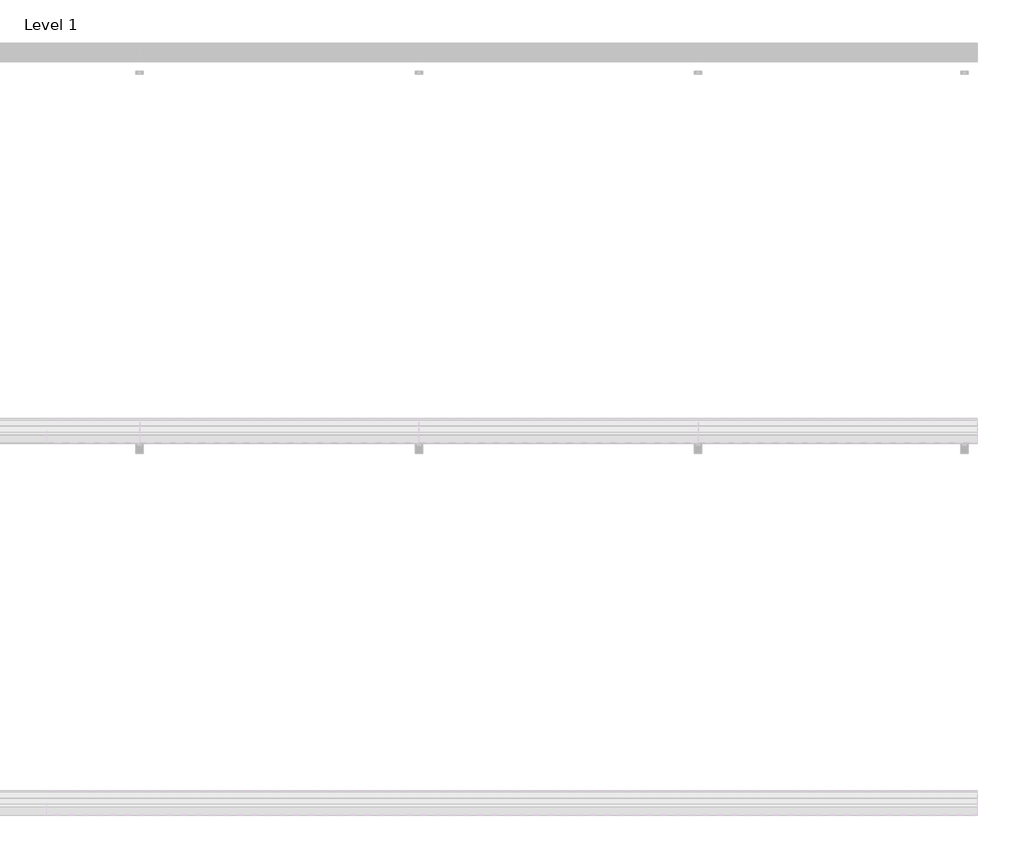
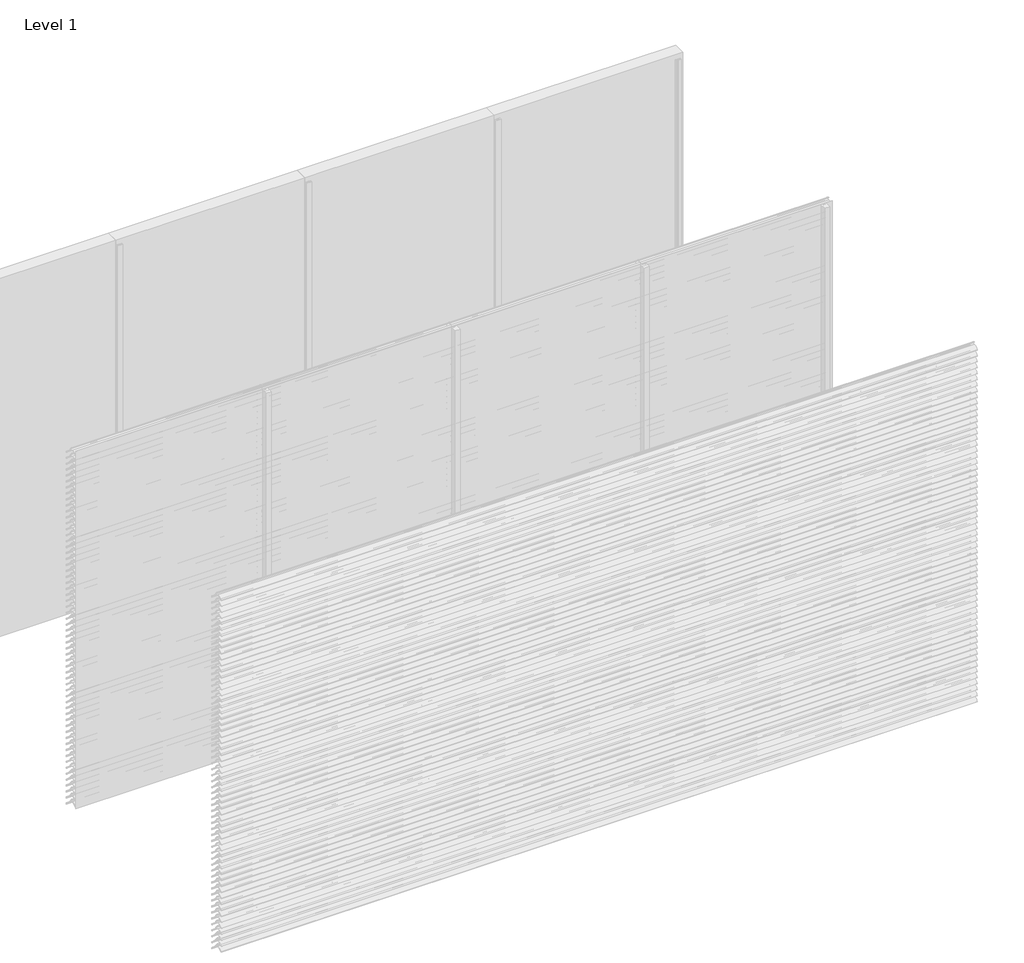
# One storey, part 84 of 173: 18 proxies.
"""IFC4 building model written with IfcOpenShell, lengths in millimetres."""

from ifc_helpers import new_model, si_unit, point, frame, frame_2d, origin, place, context, project, spatial, polyline, circle_curve, trimmed, segment, composite_curve, outline, extrude, element, save

model = new_model("IFC4")

# Units and contexts
model_context = context("Model", 3, world=origin())
ifc_project = project(units=[si_unit("LENGTHUNIT", "METRE", prefix="MILLI")], contexts=[model_context])

# Site, building, storey
site = spatial("IfcSite", under=ifc_project)
building = spatial("IfcBuilding", under=site)
storey = spatial("IfcBuildingStorey", under=building, Name="Level 1", Elevation=0.0)

# Proxies
placement = place(None, origin())
element("IfcBuildingElementProxy", 1, Name="Wall Sweeps", at=placement, inside=storey, context=model_context, shape_type="SweptSolid", body=[
    extrude(outline(composite_curve([segment(polyline([(-29998.0, 1109.1474905), (-29998.0, 1111.6227417)]), True, "CONTINUOUS"), segment(trimmed(circle_curve(frame_2d((-29951.2682172, 1066.2200208)), 65.1557103), [point((-29998.0, 1111.6227417))], [point((-29954.4014323, 1131.3003524))], False, "CARTESIAN"), True, "CONTINUOUS"), segment(polyline([(-29954.4014323, 1131.3003524), (-29934.8315836, 1131.3003524)]), True, "CONTINUOUS"), segment(trimmed(circle_curve(frame_2d((-29732.7329489, 1278.5533172)), 250.0545817), [point((-29934.8315836, 1131.3003524))], [point((-29941.4452143, 1140.8344583))], False, "CARTESIAN"), True, "CONTINUOUS"), segment(trimmed(circle_curve(frame_2d((-29953.2981792, 1135.1737835)), 13.1352966), [point((-29941.4452143, 1140.8344583))], [point((-29953.8171475, 1148.298824))], True, "CARTESIAN"), True, "CONTINUOUS"), segment(polyline([(-29953.8171475, 1148.298824), (-29953.8171475, 1150.0)]), True, "CONTINUOUS"), segment(trimmed(circle_curve(frame_2d((-29953.2981792, 1135.1737835)), 14.8352966), [point((-29953.8171475, 1150.0))], [point((-29939.9637661, 1141.6760487))], False, "CARTESIAN"), True, "CONTINUOUS"), segment(trimmed(circle_curve(frame_2d((-29732.7329489, 1278.5533172)), 248.3545817), [point((-29939.9637661, 1141.6760487))], [point((-29873.8787895, 1074.2059416))], True, "CARTESIAN"), True, "CONTINUOUS"), segment(trimmed(circle_curve(frame_2d((-29883.8147537, 1061.6649442)), 16.0), [point((-29873.8787895, 1074.2059416))], [point((-29867.8648347, 1060.4))], False, "CARTESIAN"), True, "CONTINUOUS"), segment(polyline([(-29867.8648347, 1060.4), (-29869.6712069, 1060.4)]), True, "CONTINUOUS"), segment(trimmed(circle_curve(frame_2d((-29883.8147537, 1061.6649442)), 14.2), [point((-29869.6712069, 1060.4))], [point((-29874.9518628, 1072.7594998))], True, "CARTESIAN"), True, "CONTINUOUS"), segment(trimmed(circle_curve(frame_2d((-29732.7329489, 1278.5533172)), 250.1545817), [point((-29874.9518628, 1072.7594998))], [point((-29933.7064024, 1129.6003524))], False, "CARTESIAN"), True, "CONTINUOUS"), segment(polyline([(-29933.7064024, 1129.6003524), (-29954.3602632, 1129.6003524)]), True, "CONTINUOUS"), segment(trimmed(circle_curve(frame_2d((-29951.2682172, 1066.2200208)), 63.4557103), [point((-29954.3602632, 1129.6003524))], [point((-29998.0, 1109.1474905))], True, "CARTESIAN"), True, "CONTINUOUS")], self_intersect=False)), frame((3000.0, 0.0, 0.0), z_axis=(1.0, 0.0, 0.0), x_axis=(0.0, 1.0, 0.0)), (0.0, 0.0, 1.0), 1500.0),
])
element("IfcBuildingElementProxy", 2, Name="Wall Sweeps", at=placement, inside=storey, context=model_context, shape_type="SweptSolid", body=[
    extrude(outline(composite_curve([segment(polyline([(-29998.0, 1059.1474905), (-29998.0, 1061.6227417)]), True, "CONTINUOUS"), segment(trimmed(circle_curve(frame_2d((-29951.2682172, 1016.2200208)), 65.1557103), [point((-29998.0, 1061.6227417))], [point((-29954.4014323, 1081.3003524))], False, "CARTESIAN"), True, "CONTINUOUS"), segment(polyline([(-29954.4014323, 1081.3003524), (-29934.8315836, 1081.3003524)]), True, "CONTINUOUS"), segment(trimmed(circle_curve(frame_2d((-29732.7329489, 1228.5533172)), 250.0545817), [point((-29934.8315836, 1081.3003524))], [point((-29941.4452143, 1090.8344583))], False, "CARTESIAN"), True, "CONTINUOUS"), segment(trimmed(circle_curve(frame_2d((-29953.2981792, 1085.1737835)), 13.1352966), [point((-29941.4452143, 1090.8344583))], [point((-29953.8171475, 1098.298824))], True, "CARTESIAN"), True, "CONTINUOUS"), segment(polyline([(-29953.8171475, 1098.298824), (-29953.8171475, 1100.0)]), True, "CONTINUOUS"), segment(trimmed(circle_curve(frame_2d((-29953.2981792, 1085.1737835)), 14.8352966), [point((-29953.8171475, 1100.0))], [point((-29939.9637661, 1091.6760487))], False, "CARTESIAN"), True, "CONTINUOUS"), segment(trimmed(circle_curve(frame_2d((-29732.7329489, 1228.5533172)), 248.3545817), [point((-29939.9637661, 1091.6760487))], [point((-29873.8787895, 1024.2059416))], True, "CARTESIAN"), True, "CONTINUOUS"), segment(trimmed(circle_curve(frame_2d((-29883.8147537, 1011.6649442)), 16.0), [point((-29873.8787895, 1024.2059416))], [point((-29867.8648347, 1010.4))], False, "CARTESIAN"), True, "CONTINUOUS"), segment(polyline([(-29867.8648347, 1010.4), (-29869.6712069, 1010.4)]), True, "CONTINUOUS"), segment(trimmed(circle_curve(frame_2d((-29883.8147537, 1011.6649442)), 14.2), [point((-29869.6712069, 1010.4))], [point((-29874.9518628, 1022.7594998))], True, "CARTESIAN"), True, "CONTINUOUS"), segment(trimmed(circle_curve(frame_2d((-29732.7329489, 1228.5533172)), 250.1545817), [point((-29874.9518628, 1022.7594998))], [point((-29933.7064024, 1079.6003524))], False, "CARTESIAN"), True, "CONTINUOUS"), segment(polyline([(-29933.7064024, 1079.6003524), (-29954.3602632, 1079.6003524)]), True, "CONTINUOUS"), segment(trimmed(circle_curve(frame_2d((-29951.2682172, 1016.2200208)), 63.4557103), [point((-29954.3602632, 1079.6003524))], [point((-29998.0, 1059.1474905))], True, "CARTESIAN"), True, "CONTINUOUS")], self_intersect=False)), frame((3000.0, 0.0, 0.0), z_axis=(1.0, 0.0, 0.0), x_axis=(0.0, 1.0, 0.0)), (0.0, 0.0, 1.0), 1500.0),
])
element("IfcBuildingElementProxy", 3, Name="Wall Sweeps", at=placement, inside=storey, context=model_context, shape_type="SweptSolid", body=[
    extrude(outline(composite_curve([segment(polyline([(-29998.0, 1009.1474905), (-29998.0, 1011.6227417)]), True, "CONTINUOUS"), segment(trimmed(circle_curve(frame_2d((-29951.2682172, 966.2200208)), 65.1557103), [point((-29998.0, 1011.6227417))], [point((-29954.4014323, 1031.3003524))], False, "CARTESIAN"), True, "CONTINUOUS"), segment(polyline([(-29954.4014323, 1031.3003524), (-29934.8315836, 1031.3003524)]), True, "CONTINUOUS"), segment(trimmed(circle_curve(frame_2d((-29732.7329489, 1178.5533172)), 250.0545817), [point((-29934.8315836, 1031.3003524))], [point((-29941.4452143, 1040.8344583))], False, "CARTESIAN"), True, "CONTINUOUS"), segment(trimmed(circle_curve(frame_2d((-29953.2981792, 1035.1737835)), 13.1352966), [point((-29941.4452143, 1040.8344583))], [point((-29953.8171475, 1048.298824))], True, "CARTESIAN"), True, "CONTINUOUS"), segment(polyline([(-29953.8171475, 1048.298824), (-29953.8171475, 1050.0)]), True, "CONTINUOUS"), segment(trimmed(circle_curve(frame_2d((-29953.2981792, 1035.1737835)), 14.8352966), [point((-29953.8171475, 1050.0))], [point((-29939.9637661, 1041.6760487))], False, "CARTESIAN"), True, "CONTINUOUS"), segment(trimmed(circle_curve(frame_2d((-29732.7329489, 1178.5533172)), 248.3545817), [point((-29939.9637661, 1041.6760487))], [point((-29873.8787895, 974.2059416))], True, "CARTESIAN"), True, "CONTINUOUS"), segment(trimmed(circle_curve(frame_2d((-29883.8147537, 961.6649442)), 16.0), [point((-29873.8787895, 974.2059416))], [point((-29867.8648347, 960.4))], False, "CARTESIAN"), True, "CONTINUOUS"), segment(polyline([(-29867.8648347, 960.4), (-29869.6712069, 960.4)]), True, "CONTINUOUS"), segment(trimmed(circle_curve(frame_2d((-29883.8147537, 961.6649442)), 14.2), [point((-29869.6712069, 960.4))], [point((-29874.9518628, 972.7594998))], True, "CARTESIAN"), True, "CONTINUOUS"), segment(trimmed(circle_curve(frame_2d((-29732.7329489, 1178.5533172)), 250.1545817), [point((-29874.9518628, 972.7594998))], [point((-29933.7064024, 1029.6003524))], False, "CARTESIAN"), True, "CONTINUOUS"), segment(polyline([(-29933.7064024, 1029.6003524), (-29954.3602632, 1029.6003524)]), True, "CONTINUOUS"), segment(trimmed(circle_curve(frame_2d((-29951.2682172, 966.2200208)), 63.4557103), [point((-29954.3602632, 1029.6003524))], [point((-29998.0, 1009.1474905))], True, "CARTESIAN"), True, "CONTINUOUS")], self_intersect=False)), frame((3000.0, 0.0, 0.0), z_axis=(1.0, 0.0, 0.0), x_axis=(0.0, 1.0, 0.0)), (0.0, 0.0, 1.0), 1500.0),
])
element("IfcBuildingElementProxy", 4, Name="Wall Sweeps", at=placement, inside=storey, context=model_context, shape_type="SweptSolid", body=[
    extrude(outline(composite_curve([segment(polyline([(-29998.0, 959.1474905), (-29998.0, 961.6227417)]), True, "CONTINUOUS"), segment(trimmed(circle_curve(frame_2d((-29951.2682172, 916.2200208)), 65.1557103), [point((-29998.0, 961.6227417))], [point((-29954.4014323, 981.3003524))], False, "CARTESIAN"), True, "CONTINUOUS"), segment(polyline([(-29954.4014323, 981.3003524), (-29934.8315836, 981.3003524)]), True, "CONTINUOUS"), segment(trimmed(circle_curve(frame_2d((-29732.7329489, 1128.5533172)), 250.0545817), [point((-29934.8315836, 981.3003524))], [point((-29941.4452143, 990.8344583))], False, "CARTESIAN"), True, "CONTINUOUS"), segment(trimmed(circle_curve(frame_2d((-29953.2981792, 985.1737835)), 13.1352966), [point((-29941.4452143, 990.8344583))], [point((-29953.8171475, 998.298824))], True, "CARTESIAN"), True, "CONTINUOUS"), segment(polyline([(-29953.8171475, 998.298824), (-29953.8171475, 1000.0)]), True, "CONTINUOUS"), segment(trimmed(circle_curve(frame_2d((-29953.2981792, 985.1737835)), 14.8352966), [point((-29953.8171475, 1000.0))], [point((-29939.9637661, 991.6760487))], False, "CARTESIAN"), True, "CONTINUOUS"), segment(trimmed(circle_curve(frame_2d((-29732.7329489, 1128.5533172)), 248.3545817), [point((-29939.9637661, 991.6760487))], [point((-29873.8787895, 924.2059416))], True, "CARTESIAN"), True, "CONTINUOUS"), segment(trimmed(circle_curve(frame_2d((-29883.8147537, 911.6649442)), 16.0), [point((-29873.8787895, 924.2059416))], [point((-29867.8648347, 910.4))], False, "CARTESIAN"), True, "CONTINUOUS"), segment(polyline([(-29867.8648347, 910.4), (-29869.6712069, 910.4)]), True, "CONTINUOUS"), segment(trimmed(circle_curve(frame_2d((-29883.8147537, 911.6649442)), 14.2), [point((-29869.6712069, 910.4))], [point((-29874.9518628, 922.7594998))], True, "CARTESIAN"), True, "CONTINUOUS"), segment(trimmed(circle_curve(frame_2d((-29732.7329489, 1128.5533172)), 250.1545817), [point((-29874.9518628, 922.7594998))], [point((-29933.7064024, 979.6003524))], False, "CARTESIAN"), True, "CONTINUOUS"), segment(polyline([(-29933.7064024, 979.6003524), (-29954.3602632, 979.6003524)]), True, "CONTINUOUS"), segment(trimmed(circle_curve(frame_2d((-29951.2682172, 916.2200208)), 63.4557103), [point((-29954.3602632, 979.6003524))], [point((-29998.0, 959.1474905))], True, "CARTESIAN"), True, "CONTINUOUS")], self_intersect=False)), frame((3000.0, 0.0, 0.0), z_axis=(1.0, 0.0, 0.0), x_axis=(0.0, 1.0, 0.0)), (0.0, 0.0, 1.0), 1500.0),
])
element("IfcBuildingElementProxy", 5, Name="Wall Sweeps", at=placement, inside=storey, context=model_context, shape_type="SweptSolid", body=[
    extrude(outline(composite_curve([segment(polyline([(-29998.0, 909.1474905), (-29998.0, 911.6227417)]), True, "CONTINUOUS"), segment(trimmed(circle_curve(frame_2d((-29951.2682172, 866.2200208)), 65.1557103), [point((-29998.0, 911.6227417))], [point((-29954.4014323, 931.3003524))], False, "CARTESIAN"), True, "CONTINUOUS"), segment(polyline([(-29954.4014323, 931.3003524), (-29934.8315836, 931.3003524)]), True, "CONTINUOUS"), segment(trimmed(circle_curve(frame_2d((-29732.7329489, 1078.5533172)), 250.0545817), [point((-29934.8315836, 931.3003524))], [point((-29941.4452143, 940.8344583))], False, "CARTESIAN"), True, "CONTINUOUS"), segment(trimmed(circle_curve(frame_2d((-29953.2981792, 935.1737835)), 13.1352966), [point((-29941.4452143, 940.8344583))], [point((-29953.8171475, 948.298824))], True, "CARTESIAN"), True, "CONTINUOUS"), segment(polyline([(-29953.8171475, 948.298824), (-29953.8171475, 950.0)]), True, "CONTINUOUS"), segment(trimmed(circle_curve(frame_2d((-29953.2981792, 935.1737835)), 14.8352966), [point((-29953.8171475, 950.0))], [point((-29939.9637661, 941.6760487))], False, "CARTESIAN"), True, "CONTINUOUS"), segment(trimmed(circle_curve(frame_2d((-29732.7329489, 1078.5533172)), 248.3545817), [point((-29939.9637661, 941.6760487))], [point((-29873.8787895, 874.2059416))], True, "CARTESIAN"), True, "CONTINUOUS"), segment(trimmed(circle_curve(frame_2d((-29883.8147537, 861.6649442)), 16.0), [point((-29873.8787895, 874.2059416))], [point((-29867.8648347, 860.4))], False, "CARTESIAN"), True, "CONTINUOUS"), segment(polyline([(-29867.8648347, 860.4), (-29869.6712069, 860.4)]), True, "CONTINUOUS"), segment(trimmed(circle_curve(frame_2d((-29883.8147537, 861.6649442)), 14.2), [point((-29869.6712069, 860.4))], [point((-29874.9518628, 872.7594998))], True, "CARTESIAN"), True, "CONTINUOUS"), segment(trimmed(circle_curve(frame_2d((-29732.7329489, 1078.5533172)), 250.1545817), [point((-29874.9518628, 872.7594998))], [point((-29933.7064024, 929.6003524))], False, "CARTESIAN"), True, "CONTINUOUS"), segment(polyline([(-29933.7064024, 929.6003524), (-29954.3602632, 929.6003524)]), True, "CONTINUOUS"), segment(trimmed(circle_curve(frame_2d((-29951.2682172, 866.2200208)), 63.4557103), [point((-29954.3602632, 929.6003524))], [point((-29998.0, 909.1474905))], True, "CARTESIAN"), True, "CONTINUOUS")], self_intersect=False)), frame((3000.0, 0.0, 0.0), z_axis=(1.0, 0.0, 0.0), x_axis=(0.0, 1.0, 0.0)), (0.0, 0.0, 1.0), 1500.0),
])
element("IfcBuildingElementProxy", 6, Name="Wall Sweeps", at=placement, inside=storey, context=model_context, shape_type="SweptSolid", body=[
    extrude(outline(composite_curve([segment(polyline([(-29998.0, 859.1474905), (-29998.0, 861.6227417)]), True, "CONTINUOUS"), segment(trimmed(circle_curve(frame_2d((-29951.2682172, 816.2200208)), 65.1557103), [point((-29998.0, 861.6227417))], [point((-29954.4014323, 881.3003524))], False, "CARTESIAN"), True, "CONTINUOUS"), segment(polyline([(-29954.4014323, 881.3003524), (-29934.8315836, 881.3003524)]), True, "CONTINUOUS"), segment(trimmed(circle_curve(frame_2d((-29732.7329489, 1028.5533172)), 250.0545817), [point((-29934.8315836, 881.3003524))], [point((-29941.4452143, 890.8344583))], False, "CARTESIAN"), True, "CONTINUOUS"), segment(trimmed(circle_curve(frame_2d((-29953.2981792, 885.1737835)), 13.1352966), [point((-29941.4452143, 890.8344583))], [point((-29953.8171475, 898.298824))], True, "CARTESIAN"), True, "CONTINUOUS"), segment(polyline([(-29953.8171475, 898.298824), (-29953.8171475, 900.0)]), True, "CONTINUOUS"), segment(trimmed(circle_curve(frame_2d((-29953.2981792, 885.1737835)), 14.8352966), [point((-29953.8171475, 900.0))], [point((-29939.9637661, 891.6760487))], False, "CARTESIAN"), True, "CONTINUOUS"), segment(trimmed(circle_curve(frame_2d((-29732.7329489, 1028.5533172)), 248.3545817), [point((-29939.9637661, 891.6760487))], [point((-29873.8787895, 824.2059416))], True, "CARTESIAN"), True, "CONTINUOUS"), segment(trimmed(circle_curve(frame_2d((-29883.8147537, 811.6649442)), 16.0), [point((-29873.8787895, 824.2059416))], [point((-29867.8648347, 810.4))], False, "CARTESIAN"), True, "CONTINUOUS"), segment(polyline([(-29867.8648347, 810.4), (-29869.6712069, 810.4)]), True, "CONTINUOUS"), segment(trimmed(circle_curve(frame_2d((-29883.8147537, 811.6649442)), 14.2), [point((-29869.6712069, 810.4))], [point((-29874.9518628, 822.7594998))], True, "CARTESIAN"), True, "CONTINUOUS"), segment(trimmed(circle_curve(frame_2d((-29732.7329489, 1028.5533172)), 250.1545817), [point((-29874.9518628, 822.7594998))], [point((-29933.7064024, 879.6003524))], False, "CARTESIAN"), True, "CONTINUOUS"), segment(polyline([(-29933.7064024, 879.6003524), (-29954.3602632, 879.6003524)]), True, "CONTINUOUS"), segment(trimmed(circle_curve(frame_2d((-29951.2682172, 816.2200208)), 63.4557103), [point((-29954.3602632, 879.6003524))], [point((-29998.0, 859.1474905))], True, "CARTESIAN"), True, "CONTINUOUS")], self_intersect=False)), frame((3000.0, 0.0, 0.0), z_axis=(1.0, 0.0, 0.0), x_axis=(0.0, 1.0, 0.0)), (0.0, 0.0, 1.0), 1500.0),
])
element("IfcBuildingElementProxy", 7, Name="Wall Sweeps", at=placement, inside=storey, context=model_context, shape_type="SweptSolid", body=[
    extrude(outline(composite_curve([segment(polyline([(-29998.0, 809.1474905), (-29998.0, 811.6227417)]), True, "CONTINUOUS"), segment(trimmed(circle_curve(frame_2d((-29951.2682172, 766.2200208)), 65.1557103), [point((-29998.0, 811.6227417))], [point((-29954.4014323, 831.3003524))], False, "CARTESIAN"), True, "CONTINUOUS"), segment(polyline([(-29954.4014323, 831.3003524), (-29934.8315836, 831.3003524)]), True, "CONTINUOUS"), segment(trimmed(circle_curve(frame_2d((-29732.7329489, 978.5533172)), 250.0545817), [point((-29934.8315836, 831.3003524))], [point((-29941.4452143, 840.8344583))], False, "CARTESIAN"), True, "CONTINUOUS"), segment(trimmed(circle_curve(frame_2d((-29953.2981792, 835.1737835)), 13.1352966), [point((-29941.4452143, 840.8344583))], [point((-29953.8171475, 848.298824))], True, "CARTESIAN"), True, "CONTINUOUS"), segment(polyline([(-29953.8171475, 848.298824), (-29953.8171475, 850.0)]), True, "CONTINUOUS"), segment(trimmed(circle_curve(frame_2d((-29953.2981792, 835.1737835)), 14.8352966), [point((-29953.8171475, 850.0))], [point((-29939.9637661, 841.6760487))], False, "CARTESIAN"), True, "CONTINUOUS"), segment(trimmed(circle_curve(frame_2d((-29732.7329489, 978.5533172)), 248.3545817), [point((-29939.9637661, 841.6760487))], [point((-29873.8787895, 774.2059416))], True, "CARTESIAN"), True, "CONTINUOUS"), segment(trimmed(circle_curve(frame_2d((-29883.8147537, 761.6649442)), 16.0), [point((-29873.8787895, 774.2059416))], [point((-29867.8648347, 760.4))], False, "CARTESIAN"), True, "CONTINUOUS"), segment(polyline([(-29867.8648347, 760.4), (-29869.6712069, 760.4)]), True, "CONTINUOUS"), segment(trimmed(circle_curve(frame_2d((-29883.8147537, 761.6649442)), 14.2), [point((-29869.6712069, 760.4))], [point((-29874.9518628, 772.7594998))], True, "CARTESIAN"), True, "CONTINUOUS"), segment(trimmed(circle_curve(frame_2d((-29732.7329489, 978.5533172)), 250.1545817), [point((-29874.9518628, 772.7594998))], [point((-29933.7064024, 829.6003524))], False, "CARTESIAN"), True, "CONTINUOUS"), segment(polyline([(-29933.7064024, 829.6003524), (-29954.3602632, 829.6003524)]), True, "CONTINUOUS"), segment(trimmed(circle_curve(frame_2d((-29951.2682172, 766.2200208)), 63.4557103), [point((-29954.3602632, 829.6003524))], [point((-29998.0, 809.1474905))], True, "CARTESIAN"), True, "CONTINUOUS")], self_intersect=False)), frame((3000.0, 0.0, 0.0), z_axis=(1.0, 0.0, 0.0), x_axis=(0.0, 1.0, 0.0)), (0.0, 0.0, 1.0), 1500.0),
])
element("IfcBuildingElementProxy", 8, Name="Wall Sweeps", at=placement, inside=storey, context=model_context, shape_type="SweptSolid", body=[
    extrude(outline(composite_curve([segment(polyline([(-29998.0, 759.1474905), (-29998.0, 761.6227417)]), True, "CONTINUOUS"), segment(trimmed(circle_curve(frame_2d((-29951.2682172, 716.2200208)), 65.1557103), [point((-29998.0, 761.6227417))], [point((-29954.4014323, 781.3003524))], False, "CARTESIAN"), True, "CONTINUOUS"), segment(polyline([(-29954.4014323, 781.3003524), (-29934.8315836, 781.3003524)]), True, "CONTINUOUS"), segment(trimmed(circle_curve(frame_2d((-29732.7329489, 928.5533172)), 250.0545817), [point((-29934.8315836, 781.3003524))], [point((-29941.4452143, 790.8344583))], False, "CARTESIAN"), True, "CONTINUOUS"), segment(trimmed(circle_curve(frame_2d((-29953.2981792, 785.1737835)), 13.1352966), [point((-29941.4452143, 790.8344583))], [point((-29953.8171475, 798.298824))], True, "CARTESIAN"), True, "CONTINUOUS"), segment(polyline([(-29953.8171475, 798.298824), (-29953.8171475, 800.0)]), True, "CONTINUOUS"), segment(trimmed(circle_curve(frame_2d((-29953.2981792, 785.1737835)), 14.8352966), [point((-29953.8171475, 800.0))], [point((-29939.9637661, 791.6760487))], False, "CARTESIAN"), True, "CONTINUOUS"), segment(trimmed(circle_curve(frame_2d((-29732.7329489, 928.5533172)), 248.3545817), [point((-29939.9637661, 791.6760487))], [point((-29873.8787895, 724.2059416))], True, "CARTESIAN"), True, "CONTINUOUS"), segment(trimmed(circle_curve(frame_2d((-29883.8147537, 711.6649442)), 16.0), [point((-29873.8787895, 724.2059416))], [point((-29867.8648347, 710.4))], False, "CARTESIAN"), True, "CONTINUOUS"), segment(polyline([(-29867.8648347, 710.4), (-29869.6712069, 710.4)]), True, "CONTINUOUS"), segment(trimmed(circle_curve(frame_2d((-29883.8147537, 711.6649442)), 14.2), [point((-29869.6712069, 710.4))], [point((-29874.9518628, 722.7594998))], True, "CARTESIAN"), True, "CONTINUOUS"), segment(trimmed(circle_curve(frame_2d((-29732.7329489, 928.5533172)), 250.1545817), [point((-29874.9518628, 722.7594998))], [point((-29933.7064024, 779.6003524))], False, "CARTESIAN"), True, "CONTINUOUS"), segment(polyline([(-29933.7064024, 779.6003524), (-29954.3602632, 779.6003524)]), True, "CONTINUOUS"), segment(trimmed(circle_curve(frame_2d((-29951.2682172, 716.2200208)), 63.4557103), [point((-29954.3602632, 779.6003524))], [point((-29998.0, 759.1474905))], True, "CARTESIAN"), True, "CONTINUOUS")], self_intersect=False)), frame((3000.0, 0.0, 0.0), z_axis=(1.0, 0.0, 0.0), x_axis=(0.0, 1.0, 0.0)), (0.0, 0.0, 1.0), 1500.0),
])
element("IfcBuildingElementProxy", 9, Name="Wall Sweeps", at=placement, inside=storey, context=model_context, shape_type="SweptSolid", body=[
    extrude(outline(composite_curve([segment(polyline([(-29998.0, 709.1474905), (-29998.0, 711.6227417)]), True, "CONTINUOUS"), segment(trimmed(circle_curve(frame_2d((-29951.2682172, 666.2200208)), 65.1557103), [point((-29998.0, 711.6227417))], [point((-29954.4014323, 731.3003524))], False, "CARTESIAN"), True, "CONTINUOUS"), segment(polyline([(-29954.4014323, 731.3003524), (-29934.8315836, 731.3003524)]), True, "CONTINUOUS"), segment(trimmed(circle_curve(frame_2d((-29732.7329489, 878.5533172)), 250.0545817), [point((-29934.8315836, 731.3003524))], [point((-29941.4452143, 740.8344583))], False, "CARTESIAN"), True, "CONTINUOUS"), segment(trimmed(circle_curve(frame_2d((-29953.2981792, 735.1737835)), 13.1352966), [point((-29941.4452143, 740.8344583))], [point((-29953.8171475, 748.298824))], True, "CARTESIAN"), True, "CONTINUOUS"), segment(polyline([(-29953.8171475, 748.298824), (-29953.8171475, 750.0)]), True, "CONTINUOUS"), segment(trimmed(circle_curve(frame_2d((-29953.2981792, 735.1737835)), 14.8352966), [point((-29953.8171475, 750.0))], [point((-29939.9637661, 741.6760487))], False, "CARTESIAN"), True, "CONTINUOUS"), segment(trimmed(circle_curve(frame_2d((-29732.7329489, 878.5533172)), 248.3545817), [point((-29939.9637661, 741.6760487))], [point((-29873.8787895, 674.2059416))], True, "CARTESIAN"), True, "CONTINUOUS"), segment(trimmed(circle_curve(frame_2d((-29883.8147537, 661.6649442)), 16.0), [point((-29873.8787895, 674.2059416))], [point((-29867.8648347, 660.4))], False, "CARTESIAN"), True, "CONTINUOUS"), segment(polyline([(-29867.8648347, 660.4), (-29869.6712069, 660.4)]), True, "CONTINUOUS"), segment(trimmed(circle_curve(frame_2d((-29883.8147537, 661.6649442)), 14.2), [point((-29869.6712069, 660.4))], [point((-29874.9518628, 672.7594998))], True, "CARTESIAN"), True, "CONTINUOUS"), segment(trimmed(circle_curve(frame_2d((-29732.7329489, 878.5533172)), 250.1545817), [point((-29874.9518628, 672.7594998))], [point((-29933.7064024, 729.6003524))], False, "CARTESIAN"), True, "CONTINUOUS"), segment(polyline([(-29933.7064024, 729.6003524), (-29954.3602632, 729.6003524)]), True, "CONTINUOUS"), segment(trimmed(circle_curve(frame_2d((-29951.2682172, 666.2200208)), 63.4557103), [point((-29954.3602632, 729.6003524))], [point((-29998.0, 709.1474905))], True, "CARTESIAN"), True, "CONTINUOUS")], self_intersect=False)), frame((3000.0, 0.0, 0.0), z_axis=(1.0, 0.0, 0.0), x_axis=(0.0, 1.0, 0.0)), (0.0, 0.0, 1.0), 1500.0),
])
element("IfcBuildingElementProxy", 10, Name="Wall Sweeps", at=placement, inside=storey, context=model_context, shape_type="SweptSolid", body=[
    extrude(outline(composite_curve([segment(polyline([(-29998.0, 659.1474905), (-29998.0, 661.6227417)]), True, "CONTINUOUS"), segment(trimmed(circle_curve(frame_2d((-29951.2682172, 616.2200208)), 65.1557103), [point((-29998.0, 661.6227417))], [point((-29954.4014323, 681.3003524))], False, "CARTESIAN"), True, "CONTINUOUS"), segment(polyline([(-29954.4014323, 681.3003524), (-29934.8315836, 681.3003524)]), True, "CONTINUOUS"), segment(trimmed(circle_curve(frame_2d((-29732.7329489, 828.5533172)), 250.0545817), [point((-29934.8315836, 681.3003524))], [point((-29941.4452143, 690.8344583))], False, "CARTESIAN"), True, "CONTINUOUS"), segment(trimmed(circle_curve(frame_2d((-29953.2981792, 685.1737835)), 13.1352966), [point((-29941.4452143, 690.8344583))], [point((-29953.8171475, 698.298824))], True, "CARTESIAN"), True, "CONTINUOUS"), segment(polyline([(-29953.8171475, 698.298824), (-29953.8171475, 700.0)]), True, "CONTINUOUS"), segment(trimmed(circle_curve(frame_2d((-29953.2981792, 685.1737835)), 14.8352966), [point((-29953.8171475, 700.0))], [point((-29939.9637661, 691.6760487))], False, "CARTESIAN"), True, "CONTINUOUS"), segment(trimmed(circle_curve(frame_2d((-29732.7329489, 828.5533172)), 248.3545817), [point((-29939.9637661, 691.6760487))], [point((-29873.8787895, 624.2059416))], True, "CARTESIAN"), True, "CONTINUOUS"), segment(trimmed(circle_curve(frame_2d((-29883.8147537, 611.6649442)), 16.0), [point((-29873.8787895, 624.2059416))], [point((-29867.8648347, 610.4))], False, "CARTESIAN"), True, "CONTINUOUS"), segment(polyline([(-29867.8648347, 610.4), (-29869.6712069, 610.4)]), True, "CONTINUOUS"), segment(trimmed(circle_curve(frame_2d((-29883.8147537, 611.6649442)), 14.2), [point((-29869.6712069, 610.4))], [point((-29874.9518628, 622.7594998))], True, "CARTESIAN"), True, "CONTINUOUS"), segment(trimmed(circle_curve(frame_2d((-29732.7329489, 828.5533172)), 250.1545817), [point((-29874.9518628, 622.7594998))], [point((-29933.7064024, 679.6003524))], False, "CARTESIAN"), True, "CONTINUOUS"), segment(polyline([(-29933.7064024, 679.6003524), (-29954.3602632, 679.6003524)]), True, "CONTINUOUS"), segment(trimmed(circle_curve(frame_2d((-29951.2682172, 616.2200208)), 63.4557103), [point((-29954.3602632, 679.6003524))], [point((-29998.0, 659.1474905))], True, "CARTESIAN"), True, "CONTINUOUS")], self_intersect=False)), frame((3000.0, 0.0, 0.0), z_axis=(1.0, 0.0, 0.0), x_axis=(0.0, 1.0, 0.0)), (0.0, 0.0, 1.0), 1500.0),
])
element("IfcBuildingElementProxy", 11, Name="Wall Sweeps", at=placement, inside=storey, context=model_context, shape_type="SweptSolid", body=[
    extrude(outline(composite_curve([segment(polyline([(-29998.0, 609.1474905), (-29998.0, 611.6227417)]), True, "CONTINUOUS"), segment(trimmed(circle_curve(frame_2d((-29951.2682172, 566.2200208)), 65.1557103), [point((-29998.0, 611.6227417))], [point((-29954.4014323, 631.3003524))], False, "CARTESIAN"), True, "CONTINUOUS"), segment(polyline([(-29954.4014323, 631.3003524), (-29934.8315836, 631.3003524)]), True, "CONTINUOUS"), segment(trimmed(circle_curve(frame_2d((-29732.7329489, 778.5533172)), 250.0545817), [point((-29934.8315836, 631.3003524))], [point((-29941.4452143, 640.8344583))], False, "CARTESIAN"), True, "CONTINUOUS"), segment(trimmed(circle_curve(frame_2d((-29953.2981792, 635.1737835)), 13.1352966), [point((-29941.4452143, 640.8344583))], [point((-29953.8171475, 648.298824))], True, "CARTESIAN"), True, "CONTINUOUS"), segment(polyline([(-29953.8171475, 648.298824), (-29953.8171475, 650.0)]), True, "CONTINUOUS"), segment(trimmed(circle_curve(frame_2d((-29953.2981792, 635.1737835)), 14.8352966), [point((-29953.8171475, 650.0))], [point((-29939.9637661, 641.6760487))], False, "CARTESIAN"), True, "CONTINUOUS"), segment(trimmed(circle_curve(frame_2d((-29732.7329489, 778.5533172)), 248.3545817), [point((-29939.9637661, 641.6760487))], [point((-29873.8787895, 574.2059416))], True, "CARTESIAN"), True, "CONTINUOUS"), segment(trimmed(circle_curve(frame_2d((-29883.8147537, 561.6649442)), 16.0), [point((-29873.8787895, 574.2059416))], [point((-29867.8648347, 560.4))], False, "CARTESIAN"), True, "CONTINUOUS"), segment(polyline([(-29867.8648347, 560.4), (-29869.6712069, 560.4)]), True, "CONTINUOUS"), segment(trimmed(circle_curve(frame_2d((-29883.8147537, 561.6649442)), 14.2), [point((-29869.6712069, 560.4))], [point((-29874.9518628, 572.7594998))], True, "CARTESIAN"), True, "CONTINUOUS"), segment(trimmed(circle_curve(frame_2d((-29732.7329489, 778.5533172)), 250.1545817), [point((-29874.9518628, 572.7594998))], [point((-29933.7064024, 629.6003524))], False, "CARTESIAN"), True, "CONTINUOUS"), segment(polyline([(-29933.7064024, 629.6003524), (-29954.3602632, 629.6003524)]), True, "CONTINUOUS"), segment(trimmed(circle_curve(frame_2d((-29951.2682172, 566.2200208)), 63.4557103), [point((-29954.3602632, 629.6003524))], [point((-29998.0, 609.1474905))], True, "CARTESIAN"), True, "CONTINUOUS")], self_intersect=False)), frame((3000.0, 0.0, 0.0), z_axis=(1.0, 0.0, 0.0), x_axis=(0.0, 1.0, 0.0)), (0.0, 0.0, 1.0), 1500.0),
])
element("IfcBuildingElementProxy", 12, Name="Wall Sweeps", at=placement, inside=storey, context=model_context, shape_type="SweptSolid", body=[
    extrude(outline(composite_curve([segment(polyline([(-29998.0, 559.1474905), (-29998.0, 561.6227417)]), True, "CONTINUOUS"), segment(trimmed(circle_curve(frame_2d((-29951.2682172, 516.2200208)), 65.1557103), [point((-29998.0, 561.6227417))], [point((-29954.4014323, 581.3003524))], False, "CARTESIAN"), True, "CONTINUOUS"), segment(polyline([(-29954.4014323, 581.3003524), (-29934.8315836, 581.3003524)]), True, "CONTINUOUS"), segment(trimmed(circle_curve(frame_2d((-29732.7329489, 728.5533172)), 250.0545817), [point((-29934.8315836, 581.3003524))], [point((-29941.4452143, 590.8344583))], False, "CARTESIAN"), True, "CONTINUOUS"), segment(trimmed(circle_curve(frame_2d((-29953.2981792, 585.1737835)), 13.1352966), [point((-29941.4452143, 590.8344583))], [point((-29953.8171475, 598.298824))], True, "CARTESIAN"), True, "CONTINUOUS"), segment(polyline([(-29953.8171475, 598.298824), (-29953.8171475, 600.0)]), True, "CONTINUOUS"), segment(trimmed(circle_curve(frame_2d((-29953.2981792, 585.1737835)), 14.8352966), [point((-29953.8171475, 600.0))], [point((-29939.9637661, 591.6760487))], False, "CARTESIAN"), True, "CONTINUOUS"), segment(trimmed(circle_curve(frame_2d((-29732.7329489, 728.5533172)), 248.3545817), [point((-29939.9637661, 591.6760487))], [point((-29873.8787895, 524.2059416))], True, "CARTESIAN"), True, "CONTINUOUS"), segment(trimmed(circle_curve(frame_2d((-29883.8147537, 511.6649442)), 16.0), [point((-29873.8787895, 524.2059416))], [point((-29867.8648347, 510.4))], False, "CARTESIAN"), True, "CONTINUOUS"), segment(polyline([(-29867.8648347, 510.4), (-29869.6712069, 510.4)]), True, "CONTINUOUS"), segment(trimmed(circle_curve(frame_2d((-29883.8147537, 511.6649442)), 14.2), [point((-29869.6712069, 510.4))], [point((-29874.9518628, 522.7594998))], True, "CARTESIAN"), True, "CONTINUOUS"), segment(trimmed(circle_curve(frame_2d((-29732.7329489, 728.5533172)), 250.1545817), [point((-29874.9518628, 522.7594998))], [point((-29933.7064024, 579.6003524))], False, "CARTESIAN"), True, "CONTINUOUS"), segment(polyline([(-29933.7064024, 579.6003524), (-29954.3602632, 579.6003524)]), True, "CONTINUOUS"), segment(trimmed(circle_curve(frame_2d((-29951.2682172, 516.2200208)), 63.4557103), [point((-29954.3602632, 579.6003524))], [point((-29998.0, 559.1474905))], True, "CARTESIAN"), True, "CONTINUOUS")], self_intersect=False)), frame((3000.0, 0.0, 0.0), z_axis=(1.0, 0.0, 0.0), x_axis=(0.0, 1.0, 0.0)), (0.0, 0.0, 1.0), 1500.0),
])
element("IfcBuildingElementProxy", 13, Name="Wall Sweeps", at=placement, inside=storey, context=model_context, shape_type="SweptSolid", body=[
    extrude(outline(composite_curve([segment(polyline([(-29998.0, 509.1474905), (-29998.0, 511.6227417)]), True, "CONTINUOUS"), segment(trimmed(circle_curve(frame_2d((-29951.2682172, 466.2200208)), 65.1557103), [point((-29998.0, 511.6227417))], [point((-29954.4014323, 531.3003524))], False, "CARTESIAN"), True, "CONTINUOUS"), segment(polyline([(-29954.4014323, 531.3003524), (-29934.8315836, 531.3003524)]), True, "CONTINUOUS"), segment(trimmed(circle_curve(frame_2d((-29732.7329489, 678.5533172)), 250.0545817), [point((-29934.8315836, 531.3003524))], [point((-29941.4452143, 540.8344583))], False, "CARTESIAN"), True, "CONTINUOUS"), segment(trimmed(circle_curve(frame_2d((-29953.2981792, 535.1737835)), 13.1352966), [point((-29941.4452143, 540.8344583))], [point((-29953.8171475, 548.298824))], True, "CARTESIAN"), True, "CONTINUOUS"), segment(polyline([(-29953.8171475, 548.298824), (-29953.8171475, 550.0)]), True, "CONTINUOUS"), segment(trimmed(circle_curve(frame_2d((-29953.2981792, 535.1737835)), 14.8352966), [point((-29953.8171475, 550.0))], [point((-29939.9637661, 541.6760487))], False, "CARTESIAN"), True, "CONTINUOUS"), segment(trimmed(circle_curve(frame_2d((-29732.7329489, 678.5533172)), 248.3545817), [point((-29939.9637661, 541.6760487))], [point((-29873.8787895, 474.2059416))], True, "CARTESIAN"), True, "CONTINUOUS"), segment(trimmed(circle_curve(frame_2d((-29883.8147537, 461.6649442)), 16.0), [point((-29873.8787895, 474.2059416))], [point((-29867.8648347, 460.4))], False, "CARTESIAN"), True, "CONTINUOUS"), segment(polyline([(-29867.8648347, 460.4), (-29869.6712069, 460.4)]), True, "CONTINUOUS"), segment(trimmed(circle_curve(frame_2d((-29883.8147537, 461.6649442)), 14.2), [point((-29869.6712069, 460.4))], [point((-29874.9518628, 472.7594998))], True, "CARTESIAN"), True, "CONTINUOUS"), segment(trimmed(circle_curve(frame_2d((-29732.7329489, 678.5533172)), 250.1545817), [point((-29874.9518628, 472.7594998))], [point((-29933.7064024, 529.6003524))], False, "CARTESIAN"), True, "CONTINUOUS"), segment(polyline([(-29933.7064024, 529.6003524), (-29954.3602632, 529.6003524)]), True, "CONTINUOUS"), segment(trimmed(circle_curve(frame_2d((-29951.2682172, 466.2200208)), 63.4557103), [point((-29954.3602632, 529.6003524))], [point((-29998.0, 509.1474905))], True, "CARTESIAN"), True, "CONTINUOUS")], self_intersect=False)), frame((3000.0, 0.0, 0.0), z_axis=(1.0, 0.0, 0.0), x_axis=(0.0, 1.0, 0.0)), (0.0, 0.0, 1.0), 1500.0),
])
element("IfcBuildingElementProxy", 14, Name="Wall Sweeps", at=placement, inside=storey, context=model_context, shape_type="SweptSolid", body=[
    extrude(outline(composite_curve([segment(polyline([(-29998.0, 459.1474905), (-29998.0, 461.6227417)]), True, "CONTINUOUS"), segment(trimmed(circle_curve(frame_2d((-29951.2682172, 416.2200208)), 65.1557103), [point((-29998.0, 461.6227417))], [point((-29954.4014323, 481.3003524))], False, "CARTESIAN"), True, "CONTINUOUS"), segment(polyline([(-29954.4014323, 481.3003524), (-29934.8315836, 481.3003524)]), True, "CONTINUOUS"), segment(trimmed(circle_curve(frame_2d((-29732.7329489, 628.5533172)), 250.0545817), [point((-29934.8315836, 481.3003524))], [point((-29941.4452143, 490.8344583))], False, "CARTESIAN"), True, "CONTINUOUS"), segment(trimmed(circle_curve(frame_2d((-29953.2981792, 485.1737835)), 13.1352966), [point((-29941.4452143, 490.8344583))], [point((-29953.8171475, 498.298824))], True, "CARTESIAN"), True, "CONTINUOUS"), segment(polyline([(-29953.8171475, 498.298824), (-29953.8171475, 500.0)]), True, "CONTINUOUS"), segment(trimmed(circle_curve(frame_2d((-29953.2981792, 485.1737835)), 14.8352966), [point((-29953.8171475, 500.0))], [point((-29939.9637661, 491.6760487))], False, "CARTESIAN"), True, "CONTINUOUS"), segment(trimmed(circle_curve(frame_2d((-29732.7329489, 628.5533172)), 248.3545817), [point((-29939.9637661, 491.6760487))], [point((-29873.8787895, 424.2059416))], True, "CARTESIAN"), True, "CONTINUOUS"), segment(trimmed(circle_curve(frame_2d((-29883.8147537, 411.6649442)), 16.0), [point((-29873.8787895, 424.2059416))], [point((-29867.8648347, 410.4))], False, "CARTESIAN"), True, "CONTINUOUS"), segment(polyline([(-29867.8648347, 410.4), (-29869.6712069, 410.4)]), True, "CONTINUOUS"), segment(trimmed(circle_curve(frame_2d((-29883.8147537, 411.6649442)), 14.2), [point((-29869.6712069, 410.4))], [point((-29874.9518628, 422.7594998))], True, "CARTESIAN"), True, "CONTINUOUS"), segment(trimmed(circle_curve(frame_2d((-29732.7329489, 628.5533172)), 250.1545817), [point((-29874.9518628, 422.7594998))], [point((-29933.7064024, 479.6003524))], False, "CARTESIAN"), True, "CONTINUOUS"), segment(polyline([(-29933.7064024, 479.6003524), (-29954.3602632, 479.6003524)]), True, "CONTINUOUS"), segment(trimmed(circle_curve(frame_2d((-29951.2682172, 416.2200208)), 63.4557103), [point((-29954.3602632, 479.6003524))], [point((-29998.0, 459.1474905))], True, "CARTESIAN"), True, "CONTINUOUS")], self_intersect=False)), frame((3000.0, 0.0, 0.0), z_axis=(1.0, 0.0, 0.0), x_axis=(0.0, 1.0, 0.0)), (0.0, 0.0, 1.0), 1500.0),
])
element("IfcBuildingElementProxy", 15, Name="Wall Sweeps", at=placement, inside=storey, context=model_context, shape_type="SweptSolid", body=[
    extrude(outline(composite_curve([segment(polyline([(-29998.0, 409.1474905), (-29998.0, 411.6227417)]), True, "CONTINUOUS"), segment(trimmed(circle_curve(frame_2d((-29951.2682172, 366.2200208)), 65.1557103), [point((-29998.0, 411.6227417))], [point((-29954.4014323, 431.3003524))], False, "CARTESIAN"), True, "CONTINUOUS"), segment(polyline([(-29954.4014323, 431.3003524), (-29934.8315836, 431.3003524)]), True, "CONTINUOUS"), segment(trimmed(circle_curve(frame_2d((-29732.7329489, 578.5533172)), 250.0545817), [point((-29934.8315836, 431.3003524))], [point((-29941.4452143, 440.8344583))], False, "CARTESIAN"), True, "CONTINUOUS"), segment(trimmed(circle_curve(frame_2d((-29953.2981792, 435.1737835)), 13.1352966), [point((-29941.4452143, 440.8344583))], [point((-29953.8171475, 448.298824))], True, "CARTESIAN"), True, "CONTINUOUS"), segment(polyline([(-29953.8171475, 448.298824), (-29953.8171475, 450.0)]), True, "CONTINUOUS"), segment(trimmed(circle_curve(frame_2d((-29953.2981792, 435.1737835)), 14.8352966), [point((-29953.8171475, 450.0))], [point((-29939.9637661, 441.6760487))], False, "CARTESIAN"), True, "CONTINUOUS"), segment(trimmed(circle_curve(frame_2d((-29732.7329489, 578.5533172)), 248.3545817), [point((-29939.9637661, 441.6760487))], [point((-29873.8787895, 374.2059416))], True, "CARTESIAN"), True, "CONTINUOUS"), segment(trimmed(circle_curve(frame_2d((-29883.8147537, 361.6649442)), 16.0), [point((-29873.8787895, 374.2059416))], [point((-29867.8648347, 360.4))], False, "CARTESIAN"), True, "CONTINUOUS"), segment(polyline([(-29867.8648347, 360.4), (-29869.6712069, 360.4)]), True, "CONTINUOUS"), segment(trimmed(circle_curve(frame_2d((-29883.8147537, 361.6649442)), 14.2), [point((-29869.6712069, 360.4))], [point((-29874.9518628, 372.7594998))], True, "CARTESIAN"), True, "CONTINUOUS"), segment(trimmed(circle_curve(frame_2d((-29732.7329489, 578.5533172)), 250.1545817), [point((-29874.9518628, 372.7594998))], [point((-29933.7064024, 429.6003524))], False, "CARTESIAN"), True, "CONTINUOUS"), segment(polyline([(-29933.7064024, 429.6003524), (-29954.3602632, 429.6003524)]), True, "CONTINUOUS"), segment(trimmed(circle_curve(frame_2d((-29951.2682172, 366.2200208)), 63.4557103), [point((-29954.3602632, 429.6003524))], [point((-29998.0, 409.1474905))], True, "CARTESIAN"), True, "CONTINUOUS")], self_intersect=False)), frame((3000.0, 0.0, 0.0), z_axis=(1.0, 0.0, 0.0), x_axis=(0.0, 1.0, 0.0)), (0.0, 0.0, 1.0), 1500.0),
])
element("IfcBuildingElementProxy", 16, Name="Wall Sweeps", at=placement, inside=storey, context=model_context, shape_type="SweptSolid", body=[
    extrude(outline(composite_curve([segment(polyline([(-29998.0, 359.1474905), (-29998.0, 361.6227417)]), True, "CONTINUOUS"), segment(trimmed(circle_curve(frame_2d((-29951.2682172, 316.2200208)), 65.1557103), [point((-29998.0, 361.6227417))], [point((-29954.4014323, 381.3003524))], False, "CARTESIAN"), True, "CONTINUOUS"), segment(polyline([(-29954.4014323, 381.3003524), (-29934.8315836, 381.3003524)]), True, "CONTINUOUS"), segment(trimmed(circle_curve(frame_2d((-29732.7329489, 528.5533172)), 250.0545817), [point((-29934.8315836, 381.3003524))], [point((-29941.4452143, 390.8344583))], False, "CARTESIAN"), True, "CONTINUOUS"), segment(trimmed(circle_curve(frame_2d((-29953.2981792, 385.1737835)), 13.1352966), [point((-29941.4452143, 390.8344583))], [point((-29953.8171475, 398.298824))], True, "CARTESIAN"), True, "CONTINUOUS"), segment(polyline([(-29953.8171475, 398.298824), (-29953.8171475, 400.0)]), True, "CONTINUOUS"), segment(trimmed(circle_curve(frame_2d((-29953.2981792, 385.1737835)), 14.8352966), [point((-29953.8171475, 400.0))], [point((-29939.9637661, 391.6760487))], False, "CARTESIAN"), True, "CONTINUOUS"), segment(trimmed(circle_curve(frame_2d((-29732.7329489, 528.5533172)), 248.3545817), [point((-29939.9637661, 391.6760487))], [point((-29873.8787895, 324.2059416))], True, "CARTESIAN"), True, "CONTINUOUS"), segment(trimmed(circle_curve(frame_2d((-29883.8147537, 311.6649442)), 16.0), [point((-29873.8787895, 324.2059416))], [point((-29867.8648347, 310.4))], False, "CARTESIAN"), True, "CONTINUOUS"), segment(polyline([(-29867.8648347, 310.4), (-29869.6712069, 310.4)]), True, "CONTINUOUS"), segment(trimmed(circle_curve(frame_2d((-29883.8147537, 311.6649442)), 14.2), [point((-29869.6712069, 310.4))], [point((-29874.9518628, 322.7594998))], True, "CARTESIAN"), True, "CONTINUOUS"), segment(trimmed(circle_curve(frame_2d((-29732.7329489, 528.5533172)), 250.1545817), [point((-29874.9518628, 322.7594998))], [point((-29933.7064024, 379.6003524))], False, "CARTESIAN"), True, "CONTINUOUS"), segment(polyline([(-29933.7064024, 379.6003524), (-29954.3602632, 379.6003524)]), True, "CONTINUOUS"), segment(trimmed(circle_curve(frame_2d((-29951.2682172, 316.2200208)), 63.4557103), [point((-29954.3602632, 379.6003524))], [point((-29998.0, 359.1474905))], True, "CARTESIAN"), True, "CONTINUOUS")], self_intersect=False)), frame((3000.0, 0.0, 0.0), z_axis=(1.0, 0.0, 0.0), x_axis=(0.0, 1.0, 0.0)), (0.0, 0.0, 1.0), 1500.0),
])
element("IfcBuildingElementProxy", 17, Name="Wall Sweeps", at=placement, inside=storey, context=model_context, shape_type="SweptSolid", body=[
    extrude(outline(composite_curve([segment(polyline([(-29998.0, 309.1474905), (-29998.0, 311.6227417)]), True, "CONTINUOUS"), segment(trimmed(circle_curve(frame_2d((-29951.2682172, 266.2200208)), 65.1557103), [point((-29998.0, 311.6227417))], [point((-29954.4014323, 331.3003524))], False, "CARTESIAN"), True, "CONTINUOUS"), segment(polyline([(-29954.4014323, 331.3003524), (-29934.8315836, 331.3003524)]), True, "CONTINUOUS"), segment(trimmed(circle_curve(frame_2d((-29732.7329489, 478.5533172)), 250.0545817), [point((-29934.8315836, 331.3003524))], [point((-29941.4452143, 340.8344583))], False, "CARTESIAN"), True, "CONTINUOUS"), segment(trimmed(circle_curve(frame_2d((-29953.2981792, 335.1737835)), 13.1352966), [point((-29941.4452143, 340.8344583))], [point((-29953.8171475, 348.298824))], True, "CARTESIAN"), True, "CONTINUOUS"), segment(polyline([(-29953.8171475, 348.298824), (-29953.8171475, 350.0)]), True, "CONTINUOUS"), segment(trimmed(circle_curve(frame_2d((-29953.2981792, 335.1737835)), 14.8352966), [point((-29953.8171475, 350.0))], [point((-29939.9637661, 341.6760487))], False, "CARTESIAN"), True, "CONTINUOUS"), segment(trimmed(circle_curve(frame_2d((-29732.7329489, 478.5533172)), 248.3545817), [point((-29939.9637661, 341.6760487))], [point((-29873.8787895, 274.2059416))], True, "CARTESIAN"), True, "CONTINUOUS"), segment(trimmed(circle_curve(frame_2d((-29883.8147537, 261.6649442)), 16.0), [point((-29873.8787895, 274.2059416))], [point((-29867.8648347, 260.4))], False, "CARTESIAN"), True, "CONTINUOUS"), segment(polyline([(-29867.8648347, 260.4), (-29869.6712069, 260.4)]), True, "CONTINUOUS"), segment(trimmed(circle_curve(frame_2d((-29883.8147537, 261.6649442)), 14.2), [point((-29869.6712069, 260.4))], [point((-29874.9518628, 272.7594998))], True, "CARTESIAN"), True, "CONTINUOUS"), segment(trimmed(circle_curve(frame_2d((-29732.7329489, 478.5533172)), 250.1545817), [point((-29874.9518628, 272.7594998))], [point((-29933.7064024, 329.6003524))], False, "CARTESIAN"), True, "CONTINUOUS"), segment(polyline([(-29933.7064024, 329.6003524), (-29954.3602632, 329.6003524)]), True, "CONTINUOUS"), segment(trimmed(circle_curve(frame_2d((-29951.2682172, 266.2200208)), 63.4557103), [point((-29954.3602632, 329.6003524))], [point((-29998.0, 309.1474905))], True, "CARTESIAN"), True, "CONTINUOUS")], self_intersect=False)), frame((3000.0, 0.0, 0.0), z_axis=(1.0, 0.0, 0.0), x_axis=(0.0, 1.0, 0.0)), (0.0, 0.0, 1.0), 1500.0),
])
element("IfcBuildingElementProxy", 18, Name="Wall Sweeps", at=placement, inside=storey, context=model_context, shape_type="SweptSolid", body=[
    extrude(outline(composite_curve([segment(polyline([(-29998.0, 259.1474905), (-29998.0, 261.6227417)]), True, "CONTINUOUS"), segment(trimmed(circle_curve(frame_2d((-29951.2682172, 216.2200208)), 65.1557103), [point((-29998.0, 261.6227417))], [point((-29954.4014323, 281.3003524))], False, "CARTESIAN"), True, "CONTINUOUS"), segment(polyline([(-29954.4014323, 281.3003524), (-29934.8315836, 281.3003524)]), True, "CONTINUOUS"), segment(trimmed(circle_curve(frame_2d((-29732.7329489, 428.5533172)), 250.0545817), [point((-29934.8315836, 281.3003524))], [point((-29941.4452143, 290.8344583))], False, "CARTESIAN"), True, "CONTINUOUS"), segment(trimmed(circle_curve(frame_2d((-29953.2981792, 285.1737835)), 13.1352966), [point((-29941.4452143, 290.8344583))], [point((-29953.8171475, 298.298824))], True, "CARTESIAN"), True, "CONTINUOUS"), segment(polyline([(-29953.8171475, 298.298824), (-29953.8171475, 300.0)]), True, "CONTINUOUS"), segment(trimmed(circle_curve(frame_2d((-29953.2981792, 285.1737835)), 14.8352966), [point((-29953.8171475, 300.0))], [point((-29939.9637661, 291.6760487))], False, "CARTESIAN"), True, "CONTINUOUS"), segment(trimmed(circle_curve(frame_2d((-29732.7329489, 428.5533172)), 248.3545817), [point((-29939.9637661, 291.6760487))], [point((-29873.8787895, 224.2059416))], True, "CARTESIAN"), True, "CONTINUOUS"), segment(trimmed(circle_curve(frame_2d((-29883.8147537, 211.6649442)), 16.0), [point((-29873.8787895, 224.2059416))], [point((-29867.8648347, 210.4))], False, "CARTESIAN"), True, "CONTINUOUS"), segment(polyline([(-29867.8648347, 210.4), (-29869.6712069, 210.4)]), True, "CONTINUOUS"), segment(trimmed(circle_curve(frame_2d((-29883.8147537, 211.6649442)), 14.2), [point((-29869.6712069, 210.4))], [point((-29874.9518628, 222.7594998))], True, "CARTESIAN"), True, "CONTINUOUS"), segment(trimmed(circle_curve(frame_2d((-29732.7329489, 428.5533172)), 250.1545817), [point((-29874.9518628, 222.7594998))], [point((-29933.7064024, 279.6003524))], False, "CARTESIAN"), True, "CONTINUOUS"), segment(polyline([(-29933.7064024, 279.6003524), (-29954.3602632, 279.6003524)]), True, "CONTINUOUS"), segment(trimmed(circle_curve(frame_2d((-29951.2682172, 216.2200208)), 63.4557103), [point((-29954.3602632, 279.6003524))], [point((-29998.0, 259.1474905))], True, "CARTESIAN"), True, "CONTINUOUS")], self_intersect=False)), frame((3000.0, 0.0, 0.0), z_axis=(1.0, 0.0, 0.0), x_axis=(0.0, 1.0, 0.0)), (0.0, 0.0, 1.0), 1500.0),
])

save(model, "model.ifc")
